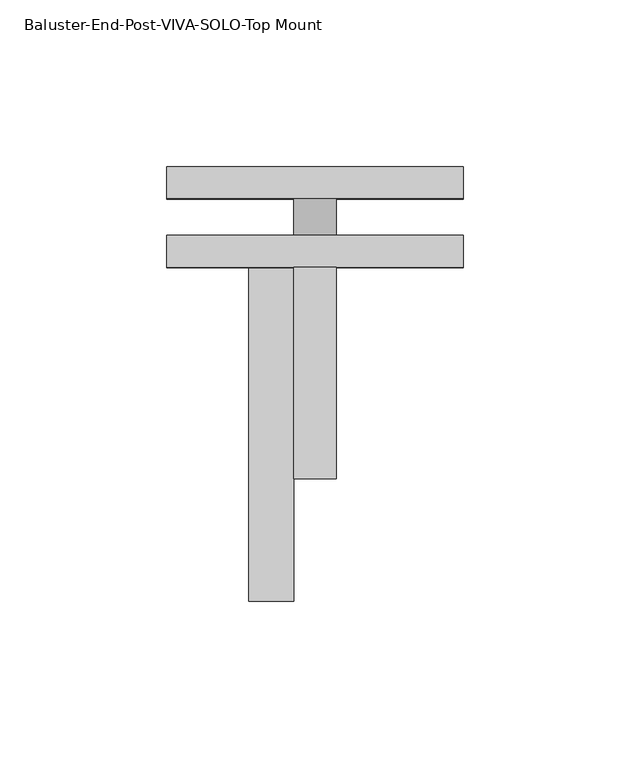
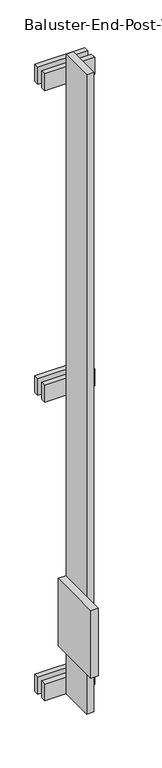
"""IFC4 building model written with IfcOpenShell, lengths in millimetres: proxy geometry, Baluster-End-Post-VIVA-SOLO-Top Mount : ANCHORED TO CONCRETE_FASCIA A1 MOUNT FOLD_STRAIGHT."""

import ifcopenshell
import ifcopenshell.guid

model = None  # the IFC model being written
_history = None  # IfcOwnerHistory: only IFC2X3 demands one
_inside = {}  # id of a spatial element -> (the spatial element, [elements in it])
_under = {}  # id of a project, library or spatial element -> (it, [spatial elements below it])
_declared = {}  # id of a project -> (the project, [libraries it declares])
_typed = {}  # id of a type object -> (the type object, [elements of that type])
_made_of = {}  # id of a material, layer set ... -> (it, [elements and type objects made of it])


def new_model(schema):
    """Start an empty IFC model of exactly this schema.

    Asked for "IFC4X3", IfcOpenShell would pick the latest addendum, in which some entities
    have other attributes; the version numbers below select the first issue.
    IFC2X3 requires an IfcOwnerHistory on every rooted entity: one is made here for all.
    """
    global model, _history
    if schema == "IFC4X3":
        model = ifcopenshell.file(schema_version=(4, 3, 0, 0))
    else:
        model = ifcopenshell.file(schema=schema)
    _inside.clear()
    _under.clear()
    _declared.clear()
    _typed.clear()
    _made_of.clear()
    _history = None
    if model.schema == "IFC2X3":
        org = make("IfcOrganization", Name="unknown")
        user = make(
            "IfcPersonAndOrganization",
            ThePerson=make("IfcPerson", FamilyName="unknown"),
            TheOrganization=org,
        )
        app = make(
            "IfcApplication",
            ApplicationDeveloper=org,
            Version="unknown",
            ApplicationFullName="unknown",
            ApplicationIdentifier="unknown",
        )
        _history = make(
            "IfcOwnerHistory",
            OwningUser=user,
            OwningApplication=app,
            ChangeAction="ADDED",
            CreationDate=0,
        )
    return model


def make(cls, **values):
    """One entity of the class cls with the attributes given. An attribute that is None is left unset."""
    return model.create_entity(
        cls, **{name: value for name, value in values.items() if value is not None}
    )


def rooted(cls, **values):
    """An entity with a GlobalId (a new one), such as an element, a storey or a relation."""
    return make(cls, GlobalId=ifcopenshell.guid.new(), OwnerHistory=_history, **values)


def si_unit(unit_type, name, prefix=None):
    """IfcSIUnit, for example si_unit("LENGTHUNIT", "METRE", prefix="MILLI")."""
    return make("IfcSIUnit", UnitType=unit_type, Prefix=prefix, Name=name)


def assignment(units):
    """IfcUnitAssignment: the units of a project."""
    return None if units is None else make("IfcUnitAssignment", Units=units)


def point(xyz):
    """IfcCartesianPoint."""
    return None if xyz is None else make("IfcCartesianPoint", Coordinates=xyz)


def direction(xyz):
    """IfcDirection."""
    return None if xyz is None else make("IfcDirection", DirectionRatios=xyz)


def frame(location, z_axis=None, x_axis=None):
    """IfcAxis2Placement3D, a coordinate frame: its origin and axes. An axis left out is left unset."""
    return make(
        "IfcAxis2Placement3D",
        Location=point(location),
        Axis=direction(z_axis),
        RefDirection=direction(x_axis),
    )


def frame_2d(location, x_axis=None):
    """IfcAxis2Placement2D, a coordinate frame in the plane: its origin and x axis."""
    return make(
        "IfcAxis2Placement2D", Location=point(location), RefDirection=direction(x_axis)
    )


def origin():
    """The frame at (0, 0, 0) with its axes left unset."""
    return frame((0.0, 0.0, 0.0))


def place(relative_to, where):
    """IfcLocalPlacement: puts the frame where relative to a parent placement (None: the world)."""
    return make(
        "IfcLocalPlacement", PlacementRelTo=relative_to, RelativePlacement=where
    )


def context(
    kind, dimensions, precision=None, world=None, true_north=None, identifier=None
):
    """IfcGeometricRepresentationContext, for example the 3D "Model" context."""
    return make(
        "IfcGeometricRepresentationContext",
        ContextIdentifier=identifier,
        ContextType=kind,
        CoordinateSpaceDimension=dimensions,
        Precision=precision,
        WorldCoordinateSystem=world,
        TrueNorth=true_north,
    )


def project(units=None, contexts=None):
    """IfcProject with its units and contexts."""
    return rooted(
        "IfcProject",
        Name="project",
        RepresentationContexts=contexts,
        UnitsInContext=assignment(units),
    )


def spatial(cls, under=None, at=None, **own):
    """A site, building, storey or space (cls), placed at a placement, below another one or the project."""
    s = rooted(cls, ObjectPlacement=at, **own)
    if under is not None:
        _under.setdefault(under.id(), (under, []))[1].append(s)
    return s


def polyline(points):
    """IfcPolyline through the points."""
    return make("IfcPolyline", Points=[point(p) for p in points])


def circle_curve(where, radius):
    """IfcCircle in the frame where."""
    return make("IfcCircle", Position=where, Radius=radius)


def trimmed(basis, trim1, trim2, sense, master):
    """IfcTrimmedCurve: the piece of a basis curve between two trims."""
    return make(
        "IfcTrimmedCurve",
        BasisCurve=basis,
        Trim1=trim1,
        Trim2=trim2,
        SenseAgreement=sense,
        MasterRepresentation=master,
    )


def segment(curve, same_sense, transition):
    """IfcCompositeCurveSegment."""
    return make(
        "IfcCompositeCurveSegment",
        Transition=transition,
        SameSense=same_sense,
        ParentCurve=curve,
    )


def composite_curve(segments, self_intersect=None):
    """IfcCompositeCurve: segments joined end to end."""
    return make("IfcCompositeCurve", Segments=segments, SelfIntersect=self_intersect)


def outline(outer, holes=None, kind="AREA"):
    """IfcArbitraryClosedProfileDef: a profile drawn as a closed curve; with holes, ...WithVoids."""
    if holes is None:
        return make("IfcArbitraryClosedProfileDef", ProfileType=kind, OuterCurve=outer)
    return make(
        "IfcArbitraryProfileDefWithVoids",
        ProfileType=kind,
        OuterCurve=outer,
        InnerCurves=holes,
    )


def extrude(swept, where, along, depth):
    """IfcExtrudedAreaSolid: the profile swept, set in the frame where, extruded along a direction by depth."""
    return make(
        "IfcExtrudedAreaSolid",
        SweptArea=swept,
        Position=where,
        ExtrudedDirection=direction(along),
        Depth=depth,
    )


def shape(context_of_items, identifier, shape_type, items):
    """IfcShapeRepresentation: the items that make up one representation, for example the "Body"."""
    return make(
        "IfcShapeRepresentation",
        ContextOfItems=context_of_items,
        RepresentationIdentifier=identifier,
        RepresentationType=shape_type,
        Items=items,
    )


def source(mapping_origin, context_of_items, identifier, shape_type, items):
    """IfcRepresentationMap: a shape defined once, which mapped items show again and again."""
    return make(
        "IfcRepresentationMap",
        MappingOrigin=mapping_origin,
        MappedRepresentation=shape(context_of_items, identifier, shape_type, items),
    )


def transform(
    local_origin,
    x_axis=None,
    y_axis=None,
    z_axis=None,
    scale=None,
    scale2=None,
    scale3=None,
    uniform=True,
):
    """IfcCartesianTransformationOperator3D, or its non-uniform kind. x_axis, y_axis, z_axis: its Axis1, 2, 3."""
    if uniform:
        return make(
            "IfcCartesianTransformationOperator3D",
            Axis1=direction(x_axis),
            Axis2=direction(y_axis),
            LocalOrigin=point(local_origin),
            Scale=scale,
            Axis3=direction(z_axis),
        )
    return make(
        "IfcCartesianTransformationOperator3DnonUniform",
        Axis1=direction(x_axis),
        Axis2=direction(y_axis),
        LocalOrigin=point(local_origin),
        Scale=scale,
        Axis3=direction(z_axis),
        Scale2=scale2,
        Scale3=scale3,
    )


def mapped(mapping_source, mapping_target):
    """IfcMappedItem: shows the shape of a source again, moved by a transform."""
    return make(
        "IfcMappedItem", MappingSource=mapping_source, MappingTarget=mapping_target
    )


def made_of(thing, what):
    """Note that an element or type object is made of a material, layer set ...; save() writes the relation."""
    if what is not None:
        _made_of.setdefault(what.id(), (what, []))[1].append(thing)
    return thing


def element(
    cls,
    number,
    at=None,
    inside=None,
    cuts=None,
    type_object=None,
    material=None,
    context=None,
    identifier="Body",
    shape_type=None,
    held_by="IfcProductDefinitionShape",
    body=None,
    shapes=None,
    **own,
):
    """One element of the class cls, such as IfcWall. Its Tag is "e" and its number.

    at: its placement. inside: the storey or other place that contains it. cuts: it is an
    opening in that element (IfcRelVoidsElement). A single representation is given by context,
    identifier, shape_type and body (its items); several are given by shapes. held_by: the class
    of the entity that holds the representations. save() writes the other relations.
    """
    e = rooted(cls, Tag="e%d" % number, ObjectPlacement=at, **own)
    if body is not None:
        shapes = [shape(context, identifier, shape_type, body)]
    if shapes is not None:
        e.Representation = make(held_by, Representations=shapes)
    if inside is not None:
        _inside.setdefault(inside.id(), (inside, []))[1].append(e)
    if cuts is not None:
        rooted(
            "IfcRelVoidsElement", RelatingBuildingElement=cuts, RelatedOpeningElement=e
        )
    if type_object is not None:
        _typed.setdefault(type_object.id(), (type_object, []))[1].append(e)
    return made_of(e, material)


def aggregate(whole, parts):
    """IfcRelAggregates: a whole, such as a stair, and the parts it consists of."""
    return rooted("IfcRelAggregates", RelatingObject=whole, RelatedObjects=parts)


def save(model, path):
    """Write the relations noted so far, then the file.

    IfcRelAggregates (storeys below a building ...), IfcRelContainedInSpatialStructure (elements
    in a storey), IfcRelDefinesByType, IfcRelAssociatesMaterial and IfcRelDeclares: one each for
    every whole, place, type object, material and project.
    """
    for whole, parts in _under.values():
        aggregate(whole, parts)
    for where, things in _inside.values():
        rooted(
            "IfcRelContainedInSpatialStructure",
            RelatedElements=things,
            RelatingStructure=where,
        )
    for kind, things in _typed.values():
        rooted("IfcRelDefinesByType", RelatedObjects=things, RelatingType=kind)
    for what, things in _made_of.values():
        rooted("IfcRelAssociatesMaterial", RelatedObjects=things, RelatingMaterial=what)
    for by, libraries in _declared.values():
        rooted("IfcRelDeclares", RelatingContext=by, RelatedDefinitions=libraries)
    model.write(path)


def baluster_end_post_viva_solo_top_mount_5ac118a2(model_context):
    return source(origin(), model_context, "Body", "SweptSolid", [
        extrude(outline(composite_curve([segment(trimmed(circle_curve(frame_2d((-294.2018268, 152.4)), 6.35), [point((-294.2018268, 146.05))], [point((-294.2018268, 158.75))], False, "CARTESIAN"), True, "CONTINUOUS"), segment(trimmed(circle_curve(frame_2d((-294.2018268, 152.4)), 6.35), [point((-294.2018268, 158.75))], [point((-294.2018268, 146.05))], False, "CARTESIAN"), True, "CONTINUOUS")], self_intersect=False)), frame((0.0, -63.209781, 0.0), z_axis=(0.0, 1.0, 0.0), x_axis=(0.0, 0.0, 1.0)), (0.0, 0.0, 1.0), 12.7),
        extrude(outline(composite_curve([segment(trimmed(circle_curve(frame_2d((268.5208758, 152.4)), 6.35), [point((268.5208758, 146.05))], [point((268.5208758, 158.75))], False, "CARTESIAN"), True, "CONTINUOUS"), segment(trimmed(circle_curve(frame_2d((268.5208758, 152.4)), 6.35), [point((268.5208758, 158.75))], [point((268.5208758, 146.05))], False, "CARTESIAN"), True, "CONTINUOUS")], self_intersect=False)), frame((0.0, -63.209781, 0.0), z_axis=(0.0, 1.0, 0.0), x_axis=(0.0, 0.0, 1.0)), (0.0, 0.0, 1.0), 12.7),
        extrude(outline(composite_curve([segment(trimmed(circle_curve(frame_2d((854.7429765, 152.4)), 6.35), [point((854.7429765, 146.05))], [point((854.7429765, 158.75))], False, "CARTESIAN"), True, "CONTINUOUS"), segment(trimmed(circle_curve(frame_2d((854.7429765, 152.4)), 6.35), [point((854.7429765, 158.75))], [point((854.7429765, 146.05))], False, "CARTESIAN"), True, "CONTINUOUS")], self_intersect=False)), frame((0.0, -63.209781, 0.0), z_axis=(0.0, 1.0, 0.0), x_axis=(0.0, 0.0, 1.0)), (0.0, 0.0, 1.0), 12.7),
        extrude(outline(polyline([(132.55625, -72.734781), (146.05, -72.734781), (146.05, -172.747281), (132.55625, -172.747281), (132.55625, -72.734781)])), frame((0.0, 0.0, -215.3506464), z_axis=(0.0, 0.0, 1.0), x_axis=(1.0, 0.0, 0.0)), (0.0, 0.0, 1.0), 127.0),
        extrude(outline(polyline([(146.05, -72.734781), (158.75, -72.734781), (158.75, -136.234781), (146.05, -136.234781), (146.05, -72.734781)])), frame((0.0, 0.0, -310.2742418), z_axis=(0.0, 0.0, 1.0), x_axis=(1.0, 0.0, 0.0)), (0.0, 0.0, 1.0), 1204.9740667),
        extrude(outline(polyline([(196.85, -42.5925389), (196.85, -52.1175389), (107.95, -52.1175389), (107.95, -42.5925389), (196.85, -42.5925389)])), frame((0.0, 0.0, -310.2742418), z_axis=(0.0, 0.0, 1.0), x_axis=(1.0, 0.0, 0.0)), (0.0, 0.0, 1.0), 31.75),
        extrude(outline(polyline([(196.85, -63.209781), (196.85, -72.734781), (107.95, -72.734781), (107.95, -63.209781), (196.85, -63.209781)])), frame((0.0, 0.0, -310.2742418), z_axis=(0.0, 0.0, 1.0), x_axis=(1.0, 0.0, 0.0)), (0.0, 0.0, 1.0), 31.75),
        extrude(outline(polyline([(196.85, -42.5925389), (196.85, -52.1175389), (107.95, -52.1175389), (107.95, -42.5925389), (196.85, -42.5925389)])), frame((0.0, 0.0, 838.7824344), z_axis=(0.0, 0.0, 1.0), x_axis=(1.0, 0.0, 0.0)), (0.0, 0.0, 1.0), 31.75),
        extrude(outline(polyline([(196.85, -42.5925389), (196.85, -52.1175389), (107.95, -52.1175389), (107.95, -42.5925389), (196.85, -42.5925389)])), frame((0.0, 0.0, 252.4484609), z_axis=(0.0, 0.0, 1.0), x_axis=(1.0, 0.0, 0.0)), (0.0, 0.0, 1.0), 31.75),
        extrude(outline(polyline([(196.85, -63.209781), (196.85, -72.734781), (107.95, -72.734781), (107.95, -63.209781), (196.85, -63.209781)])), frame((0.0, 0.0, 838.7824344), z_axis=(0.0, 0.0, 1.0), x_axis=(1.0, 0.0, 0.0)), (0.0, 0.0, 1.0), 31.75),
        extrude(outline(polyline([(196.85, -63.209781), (196.85, -72.734781), (107.95, -72.734781), (107.95, -63.209781), (196.85, -63.209781)])), frame((0.0, 0.0, 252.4484609), z_axis=(0.0, 0.0, 1.0), x_axis=(1.0, 0.0, 0.0)), (0.0, 0.0, 1.0), 31.75),
    ])


if __name__ == "__main__":
    model = new_model("IFC4")
    model_context = context("Model", 3, world=origin())
    ifc_project = project(units=[si_unit("LENGTHUNIT", "METRE", prefix="MILLI")], contexts=[model_context])
    site = spatial("IfcSite", under=ifc_project)
    building = spatial("IfcBuilding", under=site)
    placement = place(None, origin())
    baluster_end_post_viva_solo_top_mount_shape = baluster_end_post_viva_solo_top_mount_5ac118a2(model_context)
    element("IfcBuildingElementProxy", 1, Name="Baluster-End-Post-VIVA-SOLO-Top Mount : ANCHORED TO CONCRETE_FASCIA A1 MOUNT FOLD_STRAIGHT", ObjectType="Baluster-End-Post-VIVA-SOLO-Top Mount : ANCHORED TO CONCRETE_FASCIA A1 MOUNT FOLD_STRAIGHT", at=placement, inside=building, context=model_context, shape_type="MappedRepresentation", body=[
        mapped(baluster_end_post_viva_solo_top_mount_shape, transform((0.0, 0.0, 0.0), x_axis=(1.0, 0.0, 0.0), y_axis=(0.0, 1.0, 0.0), z_axis=(0.0, 0.0, 1.0))),
    ])
    save(model, "model.ifc")
